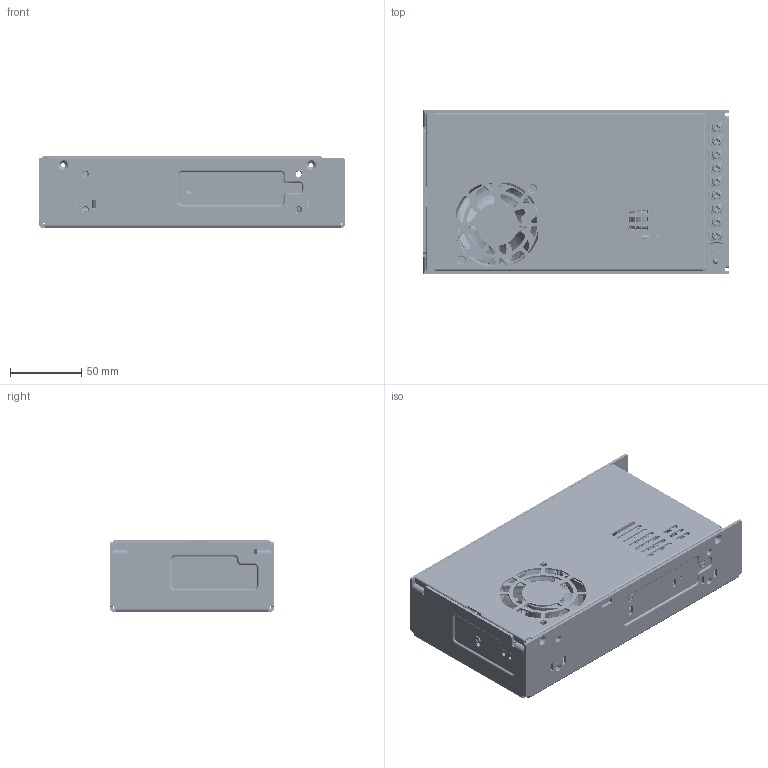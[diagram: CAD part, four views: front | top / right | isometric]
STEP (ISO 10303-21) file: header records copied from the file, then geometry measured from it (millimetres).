
FILE_DESCRIPTION((''),'2;1');
FILE_NAME('CASE_ASM','2013-05-16T',('LeoN.Yeh'),(''),'PRO/ENGINEER BY PARAMETRIC TECHNOLOGY CORPORATION, 2010280','PRO/ENGINEER BY PARAMETRIC TECHNOLOGY CORPORATION, 2010280','');
FILE_SCHEMA(('CONFIG_CONTROL_DESIGN'));
Products named in the file (52): CHASSIS_AF0; CHASSIS-STANDOFF; CHASSIS-STANDOFF-1; INSULATOR_AF0; CHASSIS_ASM; INSULATOR; PWB_2_25_2013; HSK2; INSULATOR_TO247; HSK3; D101_D102; SWITCH; BRACKET; HSK1; L_PIN_LEFT; PIN1; BD1; HSK1_ASM_ASM; Q34; IC101; T1; VR1_; LEG1_; VR_LEG__ASM; LED_HOLDER; 3105325300-L8; 3105329000-L6; 3105319300-L12; 3105320300-L12; FL1; R107; R8; F1; COVER-01; BOX1; PRT0001; PRT0002; PRT0003; PRT0004; PRT0005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
Assembly tree (70 placements, depth 4):
  CASE_ASM
    CHASSIS_ASM
      CHASSIS_AF0
      CHASSIS-STANDOFF  x2
      CHASSIS-STANDOFF-1  x3
      INSULATOR_AF0
    INSULATOR
    PWB_2_25_2013
    HSK2
    INSULATOR_TO247
    HSK3
    D101_D102  x2
    SWITCH
    BRACKET
    HSK1_ASM_ASM
      HSK1
      L_PIN_LEFT
      PIN1
      BD1
    Q34
    IC101
    T1
    VR_LEG__ASM
      VR1_
      LEG1_  x3
    LED_HOLDER
    3105325300-L8  x5
    3105329000-L6  x4
    3105319300-L12
    3105320300-L12
    FL1  x2
    R107  x3
    R8  x2
    F1
    COVER-01
    BOX1  x3
    T44-ES1109A302_ASM
      PRT0001
      PRT0002
      PRT0003
      PRT0004
      PRT0005
      PRT0006
      PRT0007
      PRT0008
      PRT0009
      PRT0010
    6020-1_ASM_ASM
      6020_ASM_6_ASM
        6020KUANG_48
        6020XIN_YE_29_4
      _6020-1_ASM
Bounding box: 215 x 115 x 50 mm (x, y, z)
Volume: 348489.3 mm3; surface area: 406151.1 mm2
Topology: 103 solids, 103 shells, 4565 faces, 11652 edges, 7320 vertices
Faces by surface type: plane 2068, cylinder 1646, torus 405, bspline 228, cone 158, extrusion 50, sphere 10
Entity records: 138954 total; most frequent: CARTESIAN_POINT 49747, ORIENTED_EDGE 18598, DIRECTION 18130, EDGE_CURVE 9299, AXIS2_PLACEMENT_3D 6258, VERTEX_POINT 5947, VECTOR 5614, LINE 5564
